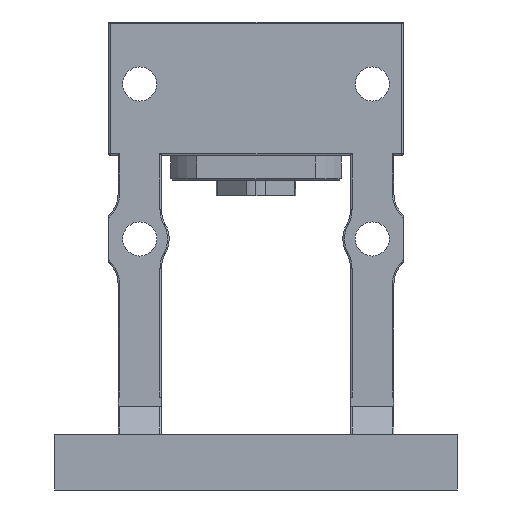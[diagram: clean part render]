
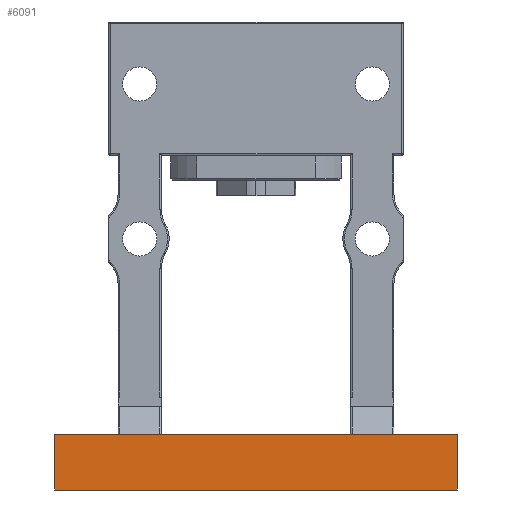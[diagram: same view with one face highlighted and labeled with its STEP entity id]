
A CAD part, front view. The second image highlights one B-rep face of the part: STEP entity #6091.
In plain terms, the highlighted planar face has unit normal (0, -1, 0).
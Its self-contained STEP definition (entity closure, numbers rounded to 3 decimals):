
#89 = EDGE_CURVE ( 'NONE', #3732, #10471, #7414, .T. ) ;
#142 = CARTESIAN_POINT ( 'NONE',  ( 65., -63., -144. ) ) ;
#166 = ORIENTED_EDGE ( 'NONE', *, *, #4532, .F. ) ;
#640 = EDGE_CURVE ( 'NONE', #10471, #6431, #4548, .T. ) ;
#960 = DIRECTION ( 'NONE',  ( 0., 0., 1. ) ) ;
#1000 = DIRECTION ( 'NONE',  ( 0., -1., 0. ) ) ;
#1040 = CARTESIAN_POINT ( 'NONE',  ( 64.5, -63., -124.5 ) ) ;
#1080 = DIRECTION ( 'NONE',  ( -1., 0., 0. ) ) ;
#1247 = CARTESIAN_POINT ( 'NONE',  ( -65., -63., -124.5 ) ) ;
#1471 = DIRECTION ( 'NONE',  ( -1., 0., 0. ) ) ;
#1563 = CARTESIAN_POINT ( 'NONE',  ( 65., -63., -124.5 ) ) ;
#1672 = CARTESIAN_POINT ( 'NONE',  ( -65., -63., -124. ) ) ;
#1779 = ORIENTED_EDGE ( 'NONE', *, *, #640, .T. ) ;
#1917 = VERTEX_POINT ( 'NONE', #5147 ) ;
#1948 = CARTESIAN_POINT ( 'NONE',  ( 65., -63., -142. ) ) ;
#2288 = PLANE ( 'NONE',  #5787 ) ;
#2339 = EDGE_LOOP ( 'NONE', ( #166, #10189, #10862, #10906, #3854, #1779 ) ) ;
#2814 = VECTOR ( 'NONE', #1471, 1000. ) ;
#2924 = DIRECTION ( 'NONE',  ( 0., 0., 1. ) ) ;
#3080 = DIRECTION ( 'NONE',  ( 0., 0., 1. ) ) ;
#3091 = CARTESIAN_POINT ( 'NONE',  ( 64.5, -63., -124. ) ) ;
#3133 = CARTESIAN_POINT ( 'NONE',  ( -65., -63., -144. ) ) ;
#3732 = VERTEX_POINT ( 'NONE', #3091 ) ;
#3854 = ORIENTED_EDGE ( 'NONE', *, *, #89, .T. ) ;
#4532 = EDGE_CURVE ( 'NONE', #7418, #6431, #5108, .T. ) ;
#4548 = CIRCLE ( 'NONE', #10737, 0.5 ) ;
#4595 = EDGE_CURVE ( 'NONE', #8836, #3732, #10489, .T. ) ;
#4639 = CARTESIAN_POINT ( 'NONE',  ( -64.5, -63., -124. ) ) ;
#4846 = VECTOR ( 'NONE', #3080, 1000. ) ;
#5108 = LINE ( 'NONE', #3133, #4846 ) ;
#5147 = CARTESIAN_POINT ( 'NONE',  ( 65., -63., -142. ) ) ;
#5561 = AXIS2_PLACEMENT_3D ( 'NONE', #1040, #1000, #960 ) ;
#5594 = VECTOR ( 'NONE', #1080, 1000. ) ;
#5787 = AXIS2_PLACEMENT_3D ( 'NONE', #7466, #7206, #7295 ) ;
#5833 = LINE ( 'NONE', #142, #8169 ) ;
#5852 = LINE ( 'NONE', #1948, #5594 ) ;
#6091 = ADVANCED_FACE ( 'NONE', ( #10991 ), #2288, .F. ) ;
#6431 = VERTEX_POINT ( 'NONE', #1247 ) ;
#6764 = CARTESIAN_POINT ( 'NONE',  ( -65., -63., -142. ) ) ;
#6772 = DIRECTION ( 'NONE',  ( 0., 0., 1. ) ) ;
#6785 = DIRECTION ( 'NONE',  ( 0., -1., 0. ) ) ;
#6815 = CARTESIAN_POINT ( 'NONE',  ( -64.5, -63., -124.5 ) ) ;
#7206 = DIRECTION ( 'NONE',  ( 0., 1., 0. ) ) ;
#7295 = DIRECTION ( 'NONE',  ( 0., 0., 1. ) ) ;
#7414 = LINE ( 'NONE', #1672, #2814 ) ;
#7418 = VERTEX_POINT ( 'NONE', #6764 ) ;
#7466 = CARTESIAN_POINT ( 'NONE',  ( -65., -63., -144. ) ) ;
#8169 = VECTOR ( 'NONE', #2924, 1000. ) ;
#8836 = VERTEX_POINT ( 'NONE', #1563 ) ;
#9122 = EDGE_CURVE ( 'NONE', #1917, #7418, #5852, .T. ) ;
#10017 = EDGE_CURVE ( 'NONE', #1917, #8836, #5833, .T. ) ;
#10189 = ORIENTED_EDGE ( 'NONE', *, *, #9122, .F. ) ;
#10471 = VERTEX_POINT ( 'NONE', #4639 ) ;
#10489 = CIRCLE ( 'NONE', #5561, 0.5 ) ;
#10737 = AXIS2_PLACEMENT_3D ( 'NONE', #6815, #6785, #6772 ) ;
#10862 = ORIENTED_EDGE ( 'NONE', *, *, #10017, .T. ) ;
#10906 = ORIENTED_EDGE ( 'NONE', *, *, #4595, .T. ) ;
#10991 = FACE_OUTER_BOUND ( 'NONE', #2339, .T. ) ;
